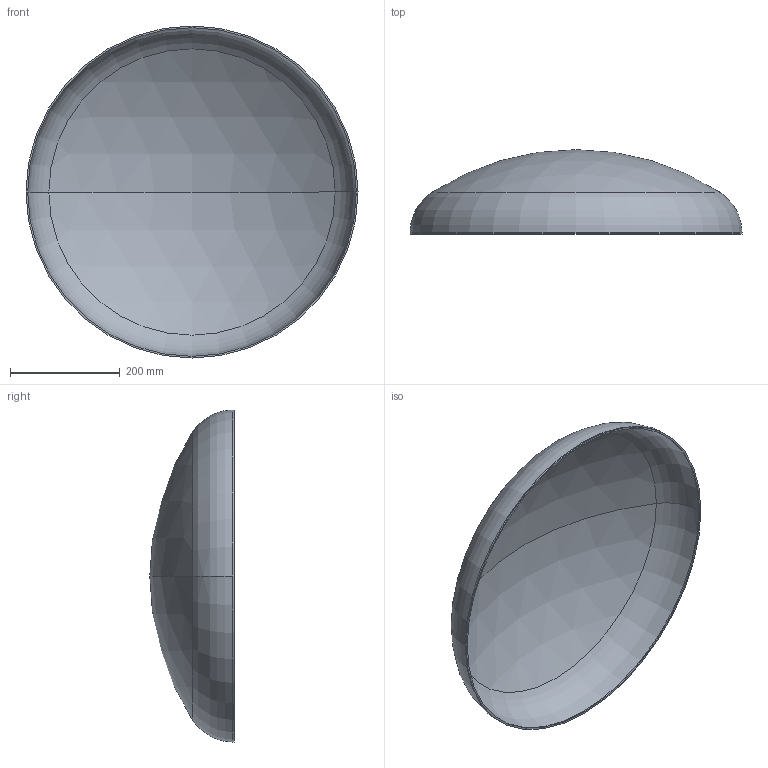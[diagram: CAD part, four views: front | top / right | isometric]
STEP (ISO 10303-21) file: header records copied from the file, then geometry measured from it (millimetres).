
FILE_DESCRIPTION (( 'STEP AP203' ), '1' );
FILE_NAME ('3D_R365_606x3_173374580.STEP', '2024-07-16T07:32:11', ( '' ), ( '' ), 'SwSTEP 2.0', 'SolidWorks 2024', '' );
FILE_SCHEMA (( 'CONFIG_CONTROL_DESIGN' ));
Length unit declared in the file: millimetre
Products named in the file (1): 3D_R365_606x3_173374580
Bounding box: 606 x 154 x 606 mm (x, y, z)
Volume: 1183794.4 mm3; surface area: 794897.9 mm2
Topology: 1 solids, 1 shells, 13 faces, 24 edges, 14 vertices
Faces by surface type: sphere 4, torus 4, cylinder 4, plane 1
Entity records: 407 total; most frequent: DIRECTION 72, CARTESIAN_POINT 52, ORIENTED_EDGE 48, AXIS2_PLACEMENT_3D 34, EDGE_CURVE 24, CIRCLE 20, VERTEX_POINT 14, EDGE_LOOP 14
